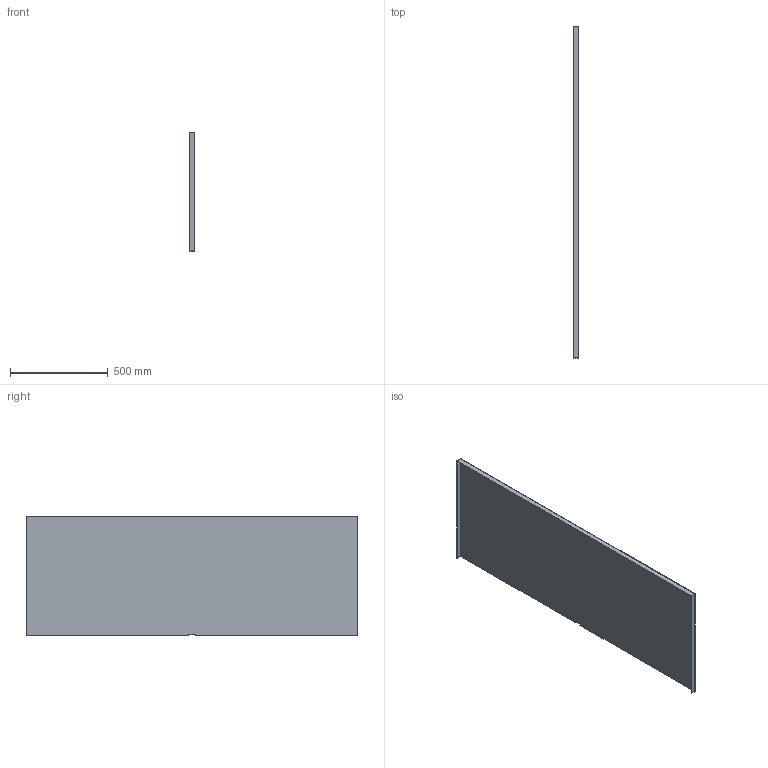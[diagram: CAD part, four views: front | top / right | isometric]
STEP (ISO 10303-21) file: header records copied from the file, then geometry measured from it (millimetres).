
FILE_DESCRIPTION(('FreeCAD Model'),'2;1');
FILE_NAME('Open CASCADE Shape Model','2026-10-06T09:33:39',('FreeCAD'),( 'FreeCAD'),'Open CASCADE STEP processor 7.8','FreeCAD','Unknown');
FILE_SCHEMA(('AUTOMOTIVE_DESIGN { 1 0 10303 214 1 1 1 1 }'));
Length unit declared in the file: millimetre
Products named in the file (1): Open CASCADE STEP translator 7.8 98
Bounding box: 27.43 x 1701.6 x 613.8 mm (x, y, z)
Volume: 2272643.4 mm3; surface area: 2246496.3 mm2
Topology: 1 solids, 1 shells, 18 faces, 52 edges, 36 vertices
Faces by surface type: plane 15, cylinder 3
Entity records: 608 total; most frequent: CARTESIAN_POINT 107, ORIENTED_EDGE 104, DIRECTION 100, EDGE_CURVE 52, LINE 42, VECTOR 42, VERTEX_POINT 36, AXIS2_PLACEMENT_3D 29
